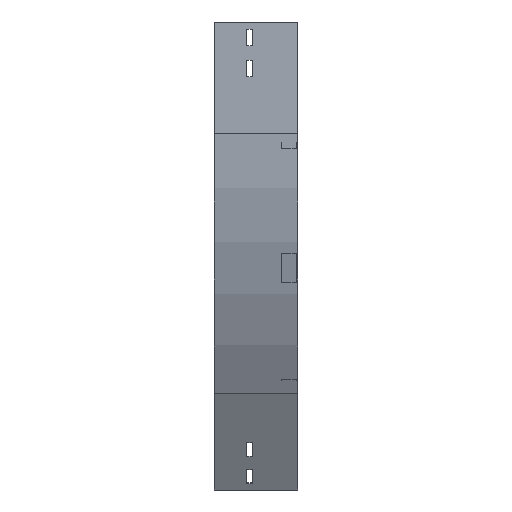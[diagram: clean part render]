
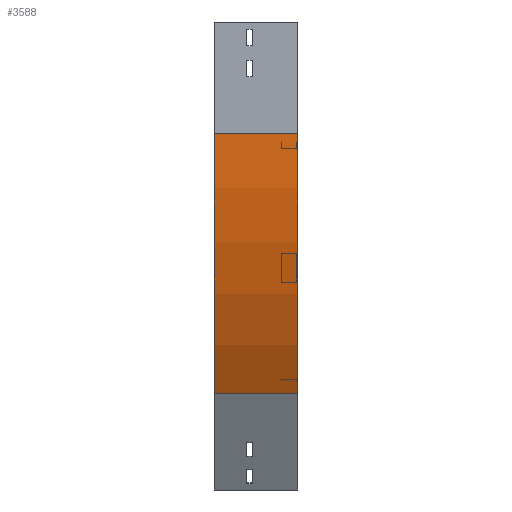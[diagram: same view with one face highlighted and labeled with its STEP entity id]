
A CAD part, left-side view. The second image highlights one B-rep face of the part: STEP entity #3588.
In plain terms, the highlighted cylindrical face has radius 700 mm (diameter 1400 mm), a partial arc.
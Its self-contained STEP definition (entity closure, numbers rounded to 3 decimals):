
#200 = CARTESIAN_POINT ( 'NONE',  ( 0., 0., -150. ) ) ;
#269 = VERTEX_POINT ( 'NONE', #375 ) ;
#306 = DIRECTION ( 'NONE',  ( 0., -1., 0. ) ) ;
#328 = AXIS2_PLACEMENT_3D ( 'NONE', #2648, #306, #1419 ) ;
#330 = ORIENTED_EDGE ( 'NONE', *, *, #1464, .F. ) ;
#375 = CARTESIAN_POINT ( 'NONE',  ( 93.782, 112.5, -500. ) ) ;
#414 = CIRCLE ( 'NONE', #1411, 700. ) ;
#535 = EDGE_CURVE ( 'NONE', #269, #3810, #1659, .T. ) ;
#577 = CYLINDRICAL_SURFACE ( 'NONE', #328, 700. ) ;
#601 = CARTESIAN_POINT ( 'NONE',  ( 0., 0., -150. ) ) ;
#663 = DIRECTION ( 'NONE',  ( 0., -1., 0. ) ) ;
#772 = EDGE_LOOP ( 'NONE', ( #1377, #330, #1532, #834 ) ) ;
#834 = ORIENTED_EDGE ( 'NONE', *, *, #535, .T. ) ;
#1233 = VECTOR ( 'NONE', #2239, 1000. ) ;
#1377 = ORIENTED_EDGE ( 'NONE', *, *, #2213, .F. ) ;
#1411 = AXIS2_PLACEMENT_3D ( 'NONE', #1568, #663, #2189 ) ;
#1419 = DIRECTION ( 'NONE',  ( 0., 0., -1. ) ) ;
#1464 = EDGE_CURVE ( 'NONE', #1621, #2011, #2289, .T. ) ;
#1532 = ORIENTED_EDGE ( 'NONE', *, *, #1688, .T. ) ;
#1568 = CARTESIAN_POINT ( 'NONE',  ( 700., 0., -150. ) ) ;
#1621 = VERTEX_POINT ( 'NONE', #2405 ) ;
#1659 = LINE ( 'NONE', #2832, #1233 ) ;
#1688 = EDGE_CURVE ( 'NONE', #1621, #269, #2275, .T. ) ;
#1758 = FACE_OUTER_BOUND ( 'NONE', #772, .T. ) ;
#1878 = CARTESIAN_POINT ( 'NONE',  ( 700., 112.5, -150. ) ) ;
#2011 = VERTEX_POINT ( 'NONE', #601 ) ;
#2189 = DIRECTION ( 'NONE',  ( -1., 0., 0. ) ) ;
#2213 = EDGE_CURVE ( 'NONE', #2011, #3810, #414, .T. ) ;
#2239 = DIRECTION ( 'NONE',  ( 0., -1., 0. ) ) ;
#2275 = CIRCLE ( 'NONE', #3461, 700. ) ;
#2279 = CARTESIAN_POINT ( 'NONE',  ( 93.782, 0., -500. ) ) ;
#2289 = LINE ( 'NONE', #200, #3470 ) ;
#2405 = CARTESIAN_POINT ( 'NONE',  ( 0., 112.5, -150. ) ) ;
#2577 = DIRECTION ( 'NONE',  ( 0., -1., 0. ) ) ;
#2648 = CARTESIAN_POINT ( 'NONE',  ( 700., 0., -150. ) ) ;
#2758 = DIRECTION ( 'NONE',  ( -1., 0., 0. ) ) ;
#2832 = CARTESIAN_POINT ( 'NONE',  ( 93.782, 0., -500. ) ) ;
#3034 = DIRECTION ( 'NONE',  ( 0., -1., 0. ) ) ;
#3461 = AXIS2_PLACEMENT_3D ( 'NONE', #1878, #3034, #2758 ) ;
#3470 = VECTOR ( 'NONE', #2577, 1000. ) ;
#3588 = ADVANCED_FACE ( 'NONE', ( #1758 ), #577, .T. ) ;
#3810 = VERTEX_POINT ( 'NONE', #2279 ) ;
